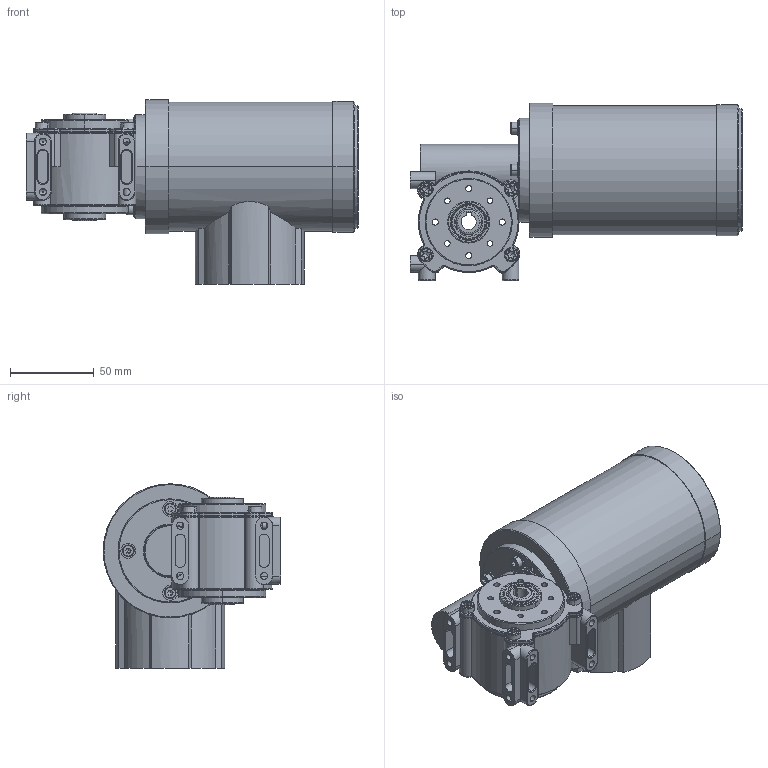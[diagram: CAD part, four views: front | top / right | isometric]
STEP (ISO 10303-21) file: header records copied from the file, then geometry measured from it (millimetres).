
FILE_DESCRIPTION (( 'STEP AP214' ), '1' );
FILE_NAME ('SN18H_90W_3000Upm_C.STEP', '2021-03-17T08:46:32', ( '' ), ( '' ), 'SwSTEP 2.0', 'SolidWorks 2019', '' );
FILE_SCHEMA (( 'AUTOMOTIVE_DESIGN' ));
Length unit declared in the file: millimetre
Products named in the file (1): SN18H_90W_3000Upm_C
Bounding box: 198 x 106 x 110 mm (x, y, z)
Surface area: 82355.8 mm2 (no closed solid volume)
Topology: 0 solids, 17 shells, 554 faces, 1529 edges, 989 vertices
Faces by surface type: cylinder 288, torus 122, plane 98, cone 36, sphere 6, bspline 4
Entity records: 26402 total; most frequent: CARTESIAN_POINT 6042, DIRECTION 3220, ORIENTED_EDGE 2789, EDGE_CURVE 1511, AXIS2_PLACEMENT_3D 1363, VERTEX_POINT 986, CIRCLE 812, EDGE_LOOP 635
